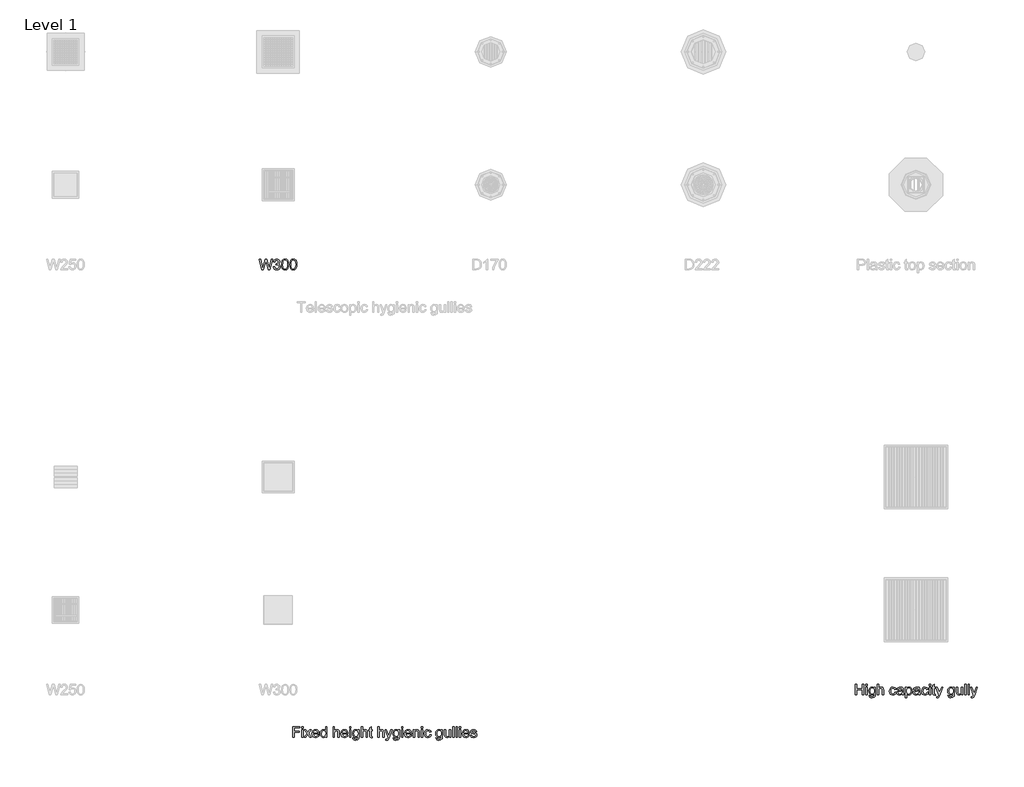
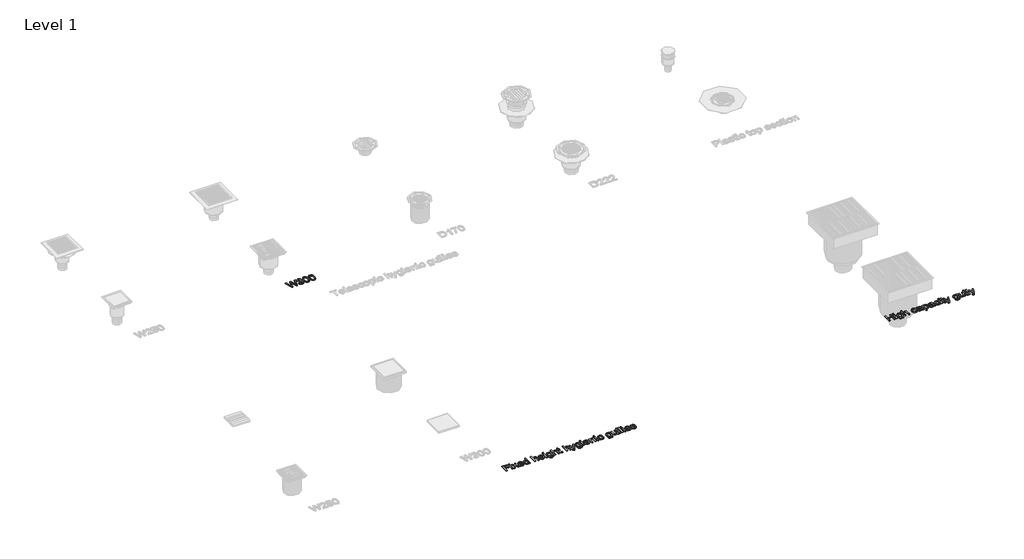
# One storey, part 2 of 3: 3 proxies.
"""IFC4 building model written with IfcOpenShell, lengths in millimetres."""

from ifc_helpers import new_model, si_unit, origin, origin_with_axes, place, context, project, spatial, polyline, outline, extrude, element, save

model = new_model("IFC4")

# Units and contexts
model_context = context("Model", 3, world=origin())
ifc_project = project(units=[si_unit("LENGTHUNIT", "METRE", prefix="MILLI")], contexts=[model_context])

# Site, building, storey
site = spatial("IfcSite", under=ifc_project)
building = spatial("IfcBuilding", under=site)
storey = spatial("IfcBuildingStorey", under=building, Name="Level 1", Elevation=0.0)

# Proxies
placement = place(None, origin())
element("IfcBuildingElementProxy", 1, Name="100mm ACO", ObjectType="100mm ACO", at=placement, inside=storey, context=model_context, shape_type="SweptSolid", body=[
    extrude(outline(polyline([(204.6296296, -6911.1111111), (150.9259259, -6911.1111111), (150.9259259, -6942.5925926), (197.2222222, -6942.5925926), (197.2222222, -6953.7037037), (150.9259259, -6953.7037037), (150.9259259, -7000.0), (137.962963, -7000.0), (137.962963, -6900.0), (204.6296296, -6900.0), (204.6296296, -6911.1111111)])), origin_with_axes(), (0.0, 0.0, 1.0), 10.0),
    extrude(outline(polyline([(234.2592593, -7000.0), (221.2962963, -7000.0), (221.2962963, -6927.7777778), (234.2592593, -6927.7777778), (234.2592593, -7000.0)])), origin_with_axes(), (0.0, 0.0, 1.0), 10.0),
    extrude(outline(polyline([(234.2592593, -6912.962963), (221.2962963, -6912.962963), (221.2962963, -6900.0), (234.2592593, -6900.0), (234.2592593, -6912.962963)])), origin_with_axes(), (0.0, 0.0, 1.0), 10.0),
    extrude(outline(polyline([(312.037037, -7000.0), (298.9872685, -7000.0), (278.7326389, -6971.7013889), (258.4780093, -7000.0), (245.3703704, -7000.0), (272.1354167, -6962.5868056), (247.2222222, -6927.7777778), (260.2719907, -6927.7777778), (278.6747685, -6953.443287), (297.0486111, -6927.7777778), (310.1851852, -6927.7777778), (285.2430556, -6962.6157407), (312.037037, -7000.0)])), origin_with_axes(), (0.0, 0.0, 1.0), 10.0),
    extrude(outline(polyline([(384.2592593, -6966.6666667), (330.5555556, -6966.6666667), (332.6280382, -6977.7922454), (337.3408565, -6985.9375), (344.1225405, -6990.9288194), (352.4016204, -6992.5925926), (364.0769676, -6988.9033565), (371.2962963, -6977.7777778), (384.2592593, -6979.2824074), (379.8828125, -6988.9033565), (372.9456019, -6996.0069444), (363.7008102, -7000.390625), (352.4016204, -7001.8518519), (337.8146701, -6999.3453414), (326.8084491, -6991.8258102), (319.8965567, -6979.9660012), (317.5925926, -6964.4386574), (319.8133681, -6948.900463), (326.4756944, -6936.6030093), (337.1744792, -6928.5951968), (351.5046296, -6925.9259259), (366.724537, -6929.3836806), (379.1521991, -6941.1603009), (382.9824942, -6951.6963252), (384.2592593, -6966.6666667)]), holes=[polyline([(371.2962963, -6957.4074074), (369.212963, -6947.2511574), (364.4675926, -6940.3935185), (351.1863426, -6935.1851852), (343.3304398, -6936.7332176), (337.0081019, -6941.3773148), (330.5555556, -6957.4074074), (371.2962963, -6957.4074074)])]), origin_with_axes(), (0.0, 0.0, 1.0), 10.0),
    extrude(outline(polyline([(458.3333333, -7000.0), (445.3703704, -7000.0), (445.3703704, -6991.8402778), (437.0153356, -6999.3489583), (425.6365741, -7001.8518519), (413.7695312, -6999.2115162), (404.0364583, -6991.2905093), (397.5368924, -6979.1594329), (395.3703704, -6963.8888889), (397.4464699, -6948.1481481), (403.6747685, -6936.1111111), (413.3101852, -6928.4722222), (425.6076389, -6925.9259259), (436.8923611, -6928.2118056), (445.1099537, -6935.0694444), (445.3703704, -6900.0), (458.3333333, -6900.0), (458.3333333, -7000.0)]), holes=[polyline([(427.1412037, -6992.5925926), (434.1941551, -6990.8854167), (440.0752315, -6985.7638889), (444.0465856, -6977.1701389), (445.3703704, -6965.0462963), (440.5237269, -6943.287037), (434.624566, -6937.2106481), (426.6203704, -6935.1851852), (418.6740451, -6937.1672454), (412.9484954, -6943.1134259), (408.3333333, -6963.9178241), (410.8217593, -6979.6730324), (417.7662037, -6989.3518519), (427.1412037, -6992.5925926)])]), origin_with_axes(), (0.0, 0.0, 1.0), 10.0),
    extrude(outline(polyline([(575.0, -7000.0), (562.037037, -7000.0), (562.037037, -6953.2986111), (558.3478009, -6939.7135417), (547.337963, -6935.1851852), (534.4039352, -6940.5237269), (530.1287616, -6947.9564525), (528.7037037, -6959.5775463), (528.7037037, -7000.0), (515.7407407, -7000.0), (515.7407407, -6900.0), (528.7037037, -6900.0), (528.7037037, -6935.8217593), (538.4042245, -6928.3998843), (550.2604167, -6925.9259259), (563.5416667, -6928.7905093), (572.4392361, -6937.6012731), (575.0, -6954.1087963), (575.0, -7000.0)])), origin_with_axes(), (0.0, 0.0, 1.0), 10.0),
    extrude(outline(polyline([(656.4814815, -6966.6666667), (602.7777778, -6966.6666667), (604.8502604, -6977.7922454), (609.5630787, -6985.9375), (616.3447627, -6990.9288194), (624.6238426, -6992.5925926), (636.2991898, -6988.9033565), (643.5185185, -6977.7777778), (656.4814815, -6979.2824074), (652.1050347, -6988.9033565), (645.1678241, -6996.0069444), (635.9230324, -7000.390625), (624.6238426, -7001.8518519), (610.0368924, -6999.3453414), (599.0306713, -6991.8258102), (592.1187789, -6979.9660012), (589.8148148, -6964.4386574), (592.0355903, -6948.900463), (598.6979167, -6936.6030093), (609.3967014, -6928.5951968), (623.7268519, -6925.9259259), (638.9467593, -6929.3836806), (651.3744213, -6941.1603009), (655.2047164, -6951.6963252), (656.4814815, -6966.6666667)]), holes=[polyline([(643.5185185, -6957.4074074), (641.4351852, -6947.2511574), (636.6898148, -6940.3935185), (623.4085648, -6935.1851852), (615.552662, -6936.7332176), (609.2303241, -6941.3773148), (602.7777778, -6957.4074074), (643.5185185, -6957.4074074)])]), origin_with_axes(), (0.0, 0.0, 1.0), 10.0),
    extrude(outline(polyline([(684.2592593, -7000.0), (671.2962963, -7000.0), (671.2962963, -6927.7777778), (684.2592593, -6927.7777778), (684.2592593, -7000.0)])), origin_with_axes(), (0.0, 0.0, 1.0), 10.0),
    extrude(outline(polyline([(684.2592593, -6912.962963), (671.2962963, -6912.962963), (671.2962963, -6900.0), (684.2592593, -6900.0), (684.2592593, -6912.962963)])), origin_with_axes(), (0.0, 0.0, 1.0), 10.0),
    extrude(outline(polyline([(762.037037, -6989.3518519), (758.984375, -7011.9936343), (748.119213, -7023.6255787), (729.4560185, -7027.7777778), (718.2400174, -7026.3708044), (709.0711806, -7022.1498843), (702.9622396, -7014.7243924), (700.9259259, -7003.7037037), (713.8888889, -7005.7581019), (718.4606481, -7015.3211806), (729.6585648, -7018.5185185), (742.96875, -7014.8292824), (748.1336806, -7005.8449074), (749.0740741, -6991.2326389), (740.2994792, -6997.8081597), (729.4849537, -7000.0), (717.0934606, -6997.3885995), (707.4074074, -6989.5543981), (701.1574074, -6977.7416088), (699.0740741, -6963.1944444), (701.0561343, -6948.5532407), (707.0023148, -6936.5740741), (716.4496528, -6928.587963), (728.9351852, -6925.9259259), (740.0101273, -6928.3058449), (748.8136574, -6935.4456019), (749.0740741, -6927.7777778), (762.037037, -6927.7777778), (762.037037, -6989.3518519)]), holes=[polyline([(731.4236111, -6990.7407407), (738.635706, -6989.134838), (744.994213, -6984.3171296), (749.4429977, -6975.7233796), (750.9259259, -6962.7893519), (749.5117187, -6951.0018808), (745.2690972, -6942.3177083), (738.9431424, -6936.968316), (731.2789352, -6935.1851852), (723.5568576, -6937.0117187), (717.4045139, -6942.4913194), (713.3789062, -6951.1465567), (712.037037, -6962.5), (713.4440104, -6975.2170139), (717.6649306, -6983.9699074), (723.9185475, -6989.0480324), (731.4236111, -6990.7407407)])]), origin_with_axes(), (0.0, 0.0, 1.0), 10.0),
    extrude(outline(polyline([(839.8148148, -7000.0), (826.8518519, -7000.0), (826.8518519, -6953.2986111), (823.1626157, -6939.7135417), (812.1527778, -6935.1851852), (799.21875, -6940.5237269), (794.9435764, -6947.9564525), (793.5185185, -6959.5775463), (793.5185185, -7000.0), (780.5555556, -7000.0), (780.5555556, -6900.0), (793.5185185, -6900.0), (793.5185185, -6935.8217593), (803.2190394, -6928.3998843), (815.0752315, -6925.9259259), (828.3564815, -6928.7905093), (837.2540509, -6937.6012731), (839.8148148, -6954.1087963), (839.8148148, -7000.0)])), origin_with_axes(), (0.0, 0.0, 1.0), 10.0),
    extrude(outline(polyline([(886.1111111, -7001.0127315), (877.025463, -7001.8518519), (865.4369213, -6998.9728009), (860.9953704, -6991.6666667), (860.1851852, -6979.3402778), (860.1851852, -6937.037037), (850.9259259, -6937.037037), (850.9259259, -6927.7777778), (860.1851852, -6927.7777778), (860.1851852, -6909.4328704), (873.1481481, -6901.8518519), (873.1481481, -6927.7777778), (884.2592593, -6927.7777778), (884.2592593, -6937.037037), (873.1481481, -6937.037037), (873.1481481, -6981.9444444), (874.1898148, -6990.162037), (879.4849537, -6992.5925926), (884.5196759, -6992.5925926), (886.1111111, -7001.0127315)])), origin_with_axes(), (0.0, 0.0, 1.0), 10.0),
    extrude(outline(polyline([(995.3703704, -7000.0), (982.4074074, -7000.0), (982.4074074, -6953.2986111), (978.7181713, -6939.7135417), (967.7083333, -6935.1851852), (954.7743056, -6940.5237269), (950.4991319, -6947.9564525), (949.0740741, -6959.5775463), (949.0740741, -7000.0), (936.1111111, -7000.0), (936.1111111, -6900.0), (949.0740741, -6900.0), (949.0740741, -6935.8217593), (958.7745949, -6928.3998843), (970.630787, -6925.9259259), (983.912037, -6928.7905093), (992.8096065, -6937.6012731), (995.3703704, -6954.1087963), (995.3703704, -7000.0)])), origin_with_axes(), (0.0, 0.0, 1.0), 10.0),
    extrude(outline(polyline([(1071.2962963, -6927.7777778), (1044.1261574, -7001.9386574), (1035.083912, -7021.2818287), (1028.9966725, -7026.1537905), (1020.775463, -7027.7777778), (1013.1944444, -7026.6203704), (1012.037037, -7016.6666667), (1018.5763889, -7018.5185185), (1027.4305556, -7014.5543981), (1033.3043981, -7001.0706019), (1006.4814815, -6927.7777778), (1018.2002315, -6927.7777778), (1035.8217593, -6973.8715278), (1039.1493056, -6984.8090278), (1044.068287, -6971.1226852), (1059.6064815, -6927.7777778), (1071.2962963, -6927.7777778)])), origin_with_axes(), (0.0, 0.0, 1.0), 10.0),
    extrude(outline(polyline([(1141.6666667, -6989.3518519), (1138.6140046, -7011.9936343), (1127.7488426, -7023.6255787), (1109.0856481, -7027.7777778), (1097.869647, -7026.3708044), (1088.7008102, -7022.1498843), (1082.5918692, -7014.7243924), (1080.5555556, -7003.7037037), (1093.5185185, -7005.7581019), (1098.0902778, -7015.3211806), (1109.2881944, -7018.5185185), (1122.5983796, -7014.8292824), (1127.7633102, -7005.8449074), (1128.7037037, -6991.2326389), (1119.9291088, -6997.8081597), (1109.1145833, -7000.0), (1096.7230903, -6997.3885995), (1087.037037, -6989.5543981), (1080.787037, -6977.7416088), (1078.7037037, -6963.1944444), (1080.6857639, -6948.5532407), (1086.6319444, -6936.5740741), (1096.0792824, -6928.587963), (1108.5648148, -6925.9259259), (1119.6397569, -6928.3058449), (1128.443287, -6935.4456019), (1128.7037037, -6927.7777778), (1141.6666667, -6927.7777778), (1141.6666667, -6989.3518519)]), holes=[polyline([(1111.0532407, -6990.7407407), (1118.2653356, -6989.134838), (1124.6238426, -6984.3171296), (1129.0726273, -6975.7233796), (1130.5555556, -6962.7893519), (1129.1413484, -6951.0018808), (1124.8987269, -6942.3177083), (1118.572772, -6936.968316), (1110.9085648, -6935.1851852), (1103.1864873, -6937.0117187), (1097.0341435, -6942.4913194), (1093.0085359, -6951.1465567), (1091.6666667, -6962.5), (1093.07364, -6975.2170139), (1097.2945602, -6983.9699074), (1103.5481771, -6989.0480324), (1111.0532407, -6990.7407407)])]), origin_with_axes(), (0.0, 0.0, 1.0), 10.0),
    extrude(outline(polyline([(1173.1481481, -7000.0), (1160.1851852, -7000.0), (1160.1851852, -6927.7777778), (1173.1481481, -6927.7777778), (1173.1481481, -7000.0)])), origin_with_axes(), (0.0, 0.0, 1.0), 10.0),
    extrude(outline(polyline([(1173.1481481, -6912.962963), (1160.1851852, -6912.962963), (1160.1851852, -6900.0), (1173.1481481, -6900.0), (1173.1481481, -6912.962963)])), origin_with_axes(), (0.0, 0.0, 1.0), 10.0),
    extrude(outline(polyline([(1254.6296296, -6966.6666667), (1200.9259259, -6966.6666667), (1202.9984086, -6977.7922454), (1207.7112269, -6985.9375), (1214.4929109, -6990.9288194), (1222.7719907, -6992.5925926), (1234.447338, -6988.9033565), (1241.6666667, -6977.7777778), (1254.6296296, -6979.2824074), (1250.2531829, -6988.9033565), (1243.3159722, -6996.0069444), (1234.0711806, -7000.390625), (1222.7719907, -7001.8518519), (1208.1850405, -6999.3453414), (1197.1788194, -6991.8258102), (1190.2669271, -6979.9660012), (1187.962963, -6964.4386574), (1190.1837384, -6948.900463), (1196.8460648, -6936.6030093), (1207.5448495, -6928.5951968), (1221.875, -6925.9259259), (1237.0949074, -6929.3836806), (1249.5225694, -6941.1603009), (1253.3528646, -6951.6963252), (1254.6296296, -6966.6666667)]), holes=[polyline([(1241.6666667, -6957.4074074), (1239.5833333, -6947.2511574), (1234.837963, -6940.3935185), (1221.556713, -6935.1851852), (1213.7008102, -6936.7332176), (1207.3784722, -6941.3773148), (1200.9259259, -6957.4074074), (1241.6666667, -6957.4074074)])]), origin_with_axes(), (0.0, 0.0, 1.0), 10.0),
    extrude(outline(polyline([(1328.7037037, -7000.0), (1315.7407407, -7000.0), (1315.7407407, -6955.0347222), (1311.8778935, -6939.4386574), (1301.1284722, -6935.1851852), (1291.1024306, -6937.9050926), (1284.3894676, -6945.5729167), (1282.4074074, -6959.5775463), (1282.4074074, -7000.0), (1269.4444444, -7000.0), (1269.4444444, -6927.7777778), (1280.5555556, -6927.7777778), (1280.5555556, -6937.818287), (1290.4513889, -6928.8917824), (1303.7037037, -6925.9259259), (1315.0752315, -6927.9803241), (1323.8715278, -6934.1290509), (1327.8790509, -6942.8674769), (1328.7037037, -6955.4108796), (1328.7037037, -7000.0)])), origin_with_axes(), (0.0, 0.0, 1.0), 10.0),
    extrude(outline(polyline([(1360.1851852, -7000.0), (1347.2222222, -7000.0), (1347.2222222, -6927.7777778), (1360.1851852, -6927.7777778), (1360.1851852, -7000.0)])), origin_with_axes(), (0.0, 0.0, 1.0), 10.0),
    extrude(outline(polyline([(1360.1851852, -6912.962963), (1347.2222222, -6912.962963), (1347.2222222, -6900.0), (1360.1851852, -6900.0), (1360.1851852, -6912.962963)])), origin_with_axes(), (0.0, 0.0, 1.0), 10.0),
    extrude(outline(polyline([(1439.8148148, -6975.5497685), (1435.7855903, -6987.3553241), (1428.6168981, -6995.5150463), (1419.2925347, -7000.2676505), (1408.7962963, -7001.8518519), (1394.4806134, -6999.2621528), (1383.8252315, -6991.4930556), (1377.2063079, -6979.4487847), (1375.0, -6964.0335648), (1380.0347222, -6941.3483796), (1392.6359954, -6929.3836806), (1408.5358796, -6925.9259259), (1427.9947917, -6931.5827546), (1434.5305266, -6938.566985), (1437.962963, -6948.2060185), (1425.0, -6950.0), (1419.0972222, -6938.9033565), (1408.6805556, -6935.1851852), (1399.7251157, -6937.0695891), (1393.2291667, -6942.7228009), (1389.2795139, -6951.7541956), (1387.962963, -6963.7731481), (1389.2831308, -6976.0018808), (1393.2436343, -6985.083912), (1399.6925637, -6990.7154225), (1408.4780093, -6992.5925926), (1421.0792824, -6987.962963), (1426.8518519, -6974.0740741), (1439.8148148, -6975.5497685)])), origin_with_axes(), (0.0, 0.0, 1.0), 10.0),
    extrude(outline(polyline([(1545.3703704, -6989.3518519), (1542.3177083, -7011.9936343), (1531.4525463, -7023.6255787), (1512.7893519, -7027.7777778), (1501.5733507, -7026.3708044), (1492.4045139, -7022.1498843), (1486.2955729, -7014.7243924), (1484.2592593, -7003.7037037), (1497.2222222, -7005.7581019), (1501.7939815, -7015.3211806), (1512.9918981, -7018.5185185), (1526.3020833, -7014.8292824), (1531.4670139, -7005.8449074), (1532.4074074, -6991.2326389), (1523.6328125, -6997.8081597), (1512.818287, -7000.0), (1500.426794, -6997.3885995), (1490.7407407, -6989.5543981), (1484.4907407, -6977.7416088), (1482.4074074, -6963.1944444), (1484.3894676, -6948.5532407), (1490.3356481, -6936.5740741), (1499.7829861, -6928.587963), (1512.2685185, -6925.9259259), (1523.3434606, -6928.3058449), (1532.1469907, -6935.4456019), (1532.4074074, -6927.7777778), (1545.3703704, -6927.7777778), (1545.3703704, -6989.3518519)]), holes=[polyline([(1514.7569444, -6990.7407407), (1521.9690394, -6989.134838), (1528.3275463, -6984.3171296), (1532.776331, -6975.7233796), (1534.2592593, -6962.7893519), (1532.8450521, -6951.0018808), (1528.6024306, -6942.3177083), (1522.2764757, -6936.968316), (1514.6122685, -6935.1851852), (1506.890191, -6937.0117187), (1500.7378472, -6942.4913194), (1496.7122396, -6951.1465567), (1495.3703704, -6962.5), (1496.7773437, -6975.2170139), (1500.9982639, -6983.9699074), (1507.2518808, -6989.0480324), (1514.7569444, -6990.7407407)])]), origin_with_axes(), (0.0, 0.0, 1.0), 10.0),
    extrude(outline(polyline([(1623.1481481, -7000.0), (1612.037037, -7000.0), (1612.037037, -6989.4965278), (1601.7939815, -6998.7630208), (1588.8310185, -7001.8518519), (1574.7106481, -6998.3362269), (1566.0590278, -6988.6574074), (1563.8888889, -6972.65625), (1563.8888889, -6927.7777778), (1576.8518519, -6927.7777778), (1576.8518519, -6968.75), (1577.7488426, -6982.8414352), (1582.4363426, -6989.84375), (1591.4641204, -6992.5925926), (1604.2100694, -6987.6736111), (1608.6914062, -6980.1215278), (1610.1851852, -6967.3032407), (1610.1851852, -6927.7777778), (1623.1481481, -6927.7777778), (1623.1481481, -7000.0)])), origin_with_axes(), (0.0, 0.0, 1.0), 10.0),
    extrude(outline(polyline([(1654.6296296, -7000.0), (1641.6666667, -7000.0), (1641.6666667, -6900.0), (1654.6296296, -6900.0), (1654.6296296, -7000.0)])), origin_with_axes(), (0.0, 0.0, 1.0), 10.0),
    extrude(outline(polyline([(1686.1111111, -7000.0), (1673.1481481, -7000.0), (1673.1481481, -6900.0), (1686.1111111, -6900.0), (1686.1111111, -7000.0)])), origin_with_axes(), (0.0, 0.0, 1.0), 10.0),
    extrude(outline(polyline([(1717.5925926, -6912.962963), (1704.6296296, -6912.962963), (1704.6296296, -6900.0), (1717.5925926, -6900.0), (1717.5925926, -6912.962963)])), origin_with_axes(), (0.0, 0.0, 1.0), 10.0),
    extrude(outline(polyline([(1717.5925926, -7000.0), (1704.6296296, -7000.0), (1704.6296296, -6927.7777778), (1717.5925926, -6927.7777778), (1717.5925926, -7000.0)])), origin_with_axes(), (0.0, 0.0, 1.0), 10.0),
    extrude(outline(polyline([(1799.0740741, -6966.6666667), (1745.3703704, -6966.6666667), (1747.442853, -6977.7922454), (1752.1556713, -6985.9375), (1758.9373553, -6990.9288194), (1767.2164352, -6992.5925926), (1778.8917824, -6988.9033565), (1786.1111111, -6977.7777778), (1799.0740741, -6979.2824074), (1794.6976273, -6988.9033565), (1787.7604167, -6996.0069444), (1778.515625, -7000.390625), (1767.2164352, -7001.8518519), (1752.629485, -6999.3453414), (1741.6232639, -6991.8258102), (1734.7113715, -6979.9660012), (1732.4074074, -6964.4386574), (1734.6281829, -6948.900463), (1741.2905093, -6936.6030093), (1751.989294, -6928.5951968), (1766.3194444, -6925.9259259), (1781.5393519, -6929.3836806), (1793.9670139, -6941.1603009), (1797.797309, -6951.6963252), (1799.0740741, -6966.6666667)]), holes=[polyline([(1786.1111111, -6957.4074074), (1784.0277778, -6947.2511574), (1779.2824074, -6940.3935185), (1766.0011574, -6935.1851852), (1758.1452546, -6936.7332176), (1751.8229167, -6941.3773148), (1745.3703704, -6957.4074074), (1786.1111111, -6957.4074074)])]), origin_with_axes(), (0.0, 0.0, 1.0), 10.0),
    extrude(outline(polyline([(1854.6296296, -6948.1481481), (1849.8408565, -6938.4259259), (1838.7731481, -6935.1851852), (1827.4594907, -6937.962963), (1823.1481481, -6946.0358796), (1825.9982639, -6953.1828704), (1839.4386574, -6957.0601852), (1857.1614583, -6961.2268519), (1866.2037037, -6967.5491898), (1869.4444444, -6978.8773148), (1867.4334491, -6987.8074363), (1861.400463, -6995.2112269), (1852.0037616, -7000.1916956), (1839.9016204, -7001.8518519), (1827.4269387, -7000.4557292), (1818.0121528, -6996.2673611), (1811.6500289, -6989.2939815), (1808.3333333, -6979.5428241), (1821.2962963, -6977.7777778), (1826.8952546, -6988.9033565), (1839.9016204, -6992.5925926), (1852.1990741, -6988.7586806), (1856.4814815, -6979.4270833), (1854.5572917, -6973.4519676), (1849.7540509, -6970.0810185), (1836.1689815, -6967.1875), (1815.234375, -6959.375), (1810.1851852, -6946.7881944), (1812.0551215, -6938.5018808), (1817.6649306, -6931.8142361), (1826.4359086, -6927.3980035), (1837.7893519, -6925.9259259), (1849.7214988, -6927.2135417), (1858.666088, -6931.0763889), (1864.6231192, -6937.5072338), (1867.5925926, -6946.4988426), (1854.6296296, -6948.1481481)])), origin_with_axes(), (0.0, 0.0, 1.0), 10.0),
])
element("IfcBuildingElementProxy", 2, Name="100mm ACO", ObjectType="100mm ACO", at=placement, inside=storey, context=model_context, shape_type="SweptSolid", body=[
    extrude(outline(polyline([(5508.3333333, -6600.0), (5495.3703704, -6600.0), (5495.3703704, -6551.8518519), (5443.5185185, -6551.8518519), (5443.5185185, -6600.0), (5430.5555556, -6600.0), (5430.5555556, -6500.0), (5443.5185185, -6500.0), (5443.5185185, -6540.7407407), (5495.3703704, -6540.7407407), (5495.3703704, -6500.0), (5508.3333333, -6500.0), (5508.3333333, -6600.0)])), origin_with_axes(), (0.0, 0.0, 1.0), 10.0),
    extrude(outline(polyline([(5541.6666667, -6600.0), (5528.7037037, -6600.0), (5528.7037037, -6527.7777778), (5541.6666667, -6527.7777778), (5541.6666667, -6600.0)])), origin_with_axes(), (0.0, 0.0, 1.0), 10.0),
    extrude(outline(polyline([(5541.6666667, -6512.962963), (5528.7037037, -6512.962963), (5528.7037037, -6500.0), (5541.6666667, -6500.0), (5541.6666667, -6512.962963)])), origin_with_axes(), (0.0, 0.0, 1.0), 10.0),
    extrude(outline(polyline([(5619.4444444, -6589.3518519), (5616.3917824, -6611.9936343), (5605.5266204, -6623.6255787), (5586.8634259, -6627.7777778), (5575.6474248, -6626.3708044), (5566.478588, -6622.1498843), (5560.369647, -6614.7243924), (5558.3333333, -6603.7037037), (5571.2962963, -6605.7581019), (5575.8680556, -6615.3211806), (5587.0659722, -6618.5185185), (5600.3761574, -6614.8292824), (5605.541088, -6605.8449074), (5606.4814815, -6591.2326389), (5597.7068866, -6597.8081597), (5586.8923611, -6600.0), (5574.5008681, -6597.3885995), (5564.8148148, -6589.5543981), (5558.5648148, -6577.7416088), (5556.4814815, -6563.1944444), (5558.4635417, -6548.5532407), (5564.4097222, -6536.5740741), (5573.8570602, -6528.587963), (5586.3425926, -6525.9259259), (5597.4175347, -6528.3058449), (5606.2210648, -6535.4456019), (5606.4814815, -6527.7777778), (5619.4444444, -6527.7777778), (5619.4444444, -6589.3518519)]), holes=[polyline([(5588.8310185, -6590.7407407), (5596.0431134, -6589.134838), (5602.4016204, -6584.3171296), (5606.8504051, -6575.7233796), (5608.3333333, -6562.7893519), (5606.9191262, -6551.0018808), (5602.6765046, -6542.3177083), (5596.3505498, -6536.968316), (5588.6863426, -6535.1851852), (5580.964265, -6537.0117187), (5574.8119213, -6542.4913194), (5570.7863137, -6551.1465567), (5569.4444444, -6562.5), (5570.8514178, -6575.2170139), (5575.072338, -6583.9699074), (5581.3259549, -6589.0480324), (5588.8310185, -6590.7407407)])]), origin_with_axes(), (0.0, 0.0, 1.0), 10.0),
    extrude(outline(polyline([(5697.2222222, -6600.0), (5684.2592593, -6600.0), (5684.2592593, -6553.2986111), (5680.5700231, -6539.7135417), (5669.5601852, -6535.1851852), (5656.6261574, -6540.5237269), (5652.3509838, -6547.9564525), (5650.9259259, -6559.5775463), (5650.9259259, -6600.0), (5637.962963, -6600.0), (5637.962963, -6500.0), (5650.9259259, -6500.0), (5650.9259259, -6535.8217593), (5660.6264468, -6528.3998843), (5672.4826389, -6525.9259259), (5685.7638889, -6528.7905093), (5694.6614583, -6537.6012731), (5697.2222222, -6554.1087963), (5697.2222222, -6600.0)])), origin_with_axes(), (0.0, 0.0, 1.0), 10.0),
    extrude(outline(polyline([(5815.7407407, -6575.5497685), (5811.7115162, -6587.3553241), (5804.5428241, -6595.5150463), (5795.2184606, -6600.2676505), (5784.7222222, -6601.8518519), (5770.4065394, -6599.2621528), (5759.7511574, -6591.4930556), (5753.1322338, -6579.4487847), (5750.9259259, -6564.0335648), (5755.9606481, -6541.3483796), (5768.5619213, -6529.3836806), (5784.4618056, -6525.9259259), (5803.9207176, -6531.5827546), (5810.4564525, -6538.566985), (5813.8888889, -6548.2060185), (5800.9259259, -6550.0), (5795.0231481, -6538.9033565), (5784.6064815, -6535.1851852), (5775.6510417, -6537.0695891), (5769.1550926, -6542.7228009), (5765.2054398, -6551.7541956), (5763.8888889, -6563.7731481), (5765.2090567, -6576.0018808), (5769.1695602, -6585.083912), (5775.6184896, -6590.7154225), (5784.4039352, -6592.5925926), (5797.0052083, -6587.962963), (5802.7777778, -6574.0740741), (5815.7407407, -6575.5497685)])), origin_with_axes(), (0.0, 0.0, 1.0), 10.0),
    extrude(outline(polyline([(5886.1111111, -6600.0), (5873.1481481, -6600.0), (5869.4444444, -6591.2615741), (5856.9516782, -6599.2042824), (5843.4895833, -6601.8518519), (5833.5033275, -6600.4050926), (5825.8825231, -6596.0648148), (5821.0539641, -6589.3518519), (5819.4444444, -6580.787037), (5821.021412, -6572.479022), (5825.7523148, -6565.7841435), (5834.3822338, -6560.8904803), (5847.65625, -6557.9861111), (5858.9988426, -6556.25), (5869.4444444, -6553.7037037), (5869.1116898, -6545.6741898), (5867.1730324, -6540.7986111), (5862.0081019, -6536.7332176), (5852.4305556, -6535.1851852), (5840.3501157, -6538.3246528), (5834.2592593, -6550.0), (5821.2962963, -6548.4085648), (5824.8517072, -6538.599537), (5831.5248843, -6531.568287), (5841.3085937, -6527.3365162), (5854.1956019, -6525.9259259), (5873.4519676, -6529.7887731), (5881.0040509, -6539.1059028), (5882.4074074, -6553.1539352), (5882.4074074, -6569.6759259), (5882.9571759, -6589.9305556), (5886.1111111, -6600.0)]), holes=[polyline([(5869.4444444, -6567.5925926), (5869.4444444, -6562.962963), (5846.166088, -6568.287037), (5835.8470775, -6572.3451968), (5832.4074074, -6580.5844907), (5836.1111111, -6589.2071759), (5846.7881944, -6592.5925926), (5862.6012731, -6586.9212963), (5867.7336516, -6579.2534722), (5869.4444444, -6567.5925926)])]), origin_with_axes(), (0.0, 0.0, 1.0), 10.0),
    extrude(outline(polyline([(5914.0190972, -6536.4872685), (5922.4754051, -6528.5662616), (5934.1435185, -6525.9259259), (5946.4699074, -6528.515625), (5955.9027778, -6536.2847222), (5961.8923611, -6548.2132523), (5963.8888889, -6563.28125), (5961.6319444, -6579.1702836), (5954.8611111, -6591.4207176), (5944.8061343, -6599.2440683), (5932.6967593, -6601.8518519), (5922.3234954, -6599.7251157), (5914.2361111, -6593.3449074), (5913.8888889, -6627.7777778), (5900.9259259, -6627.7777778), (5900.9259259, -6527.7777778), (5913.8888889, -6527.7777778), (5914.0190972, -6536.4872685)]), holes=[polyline([(5931.2789352, -6592.5925926), (5939.0516493, -6590.766059), (5945.3559028, -6585.2864583), (5949.5334201, -6576.1899595), (5950.9259259, -6563.5127315), (5949.5840567, -6551.4359086), (5945.5584491, -6542.5202546), (5939.4422743, -6537.0189525), (5931.8287037, -6535.1851852), (5923.9474826, -6537.2287326), (5917.6070602, -6543.359375), (5913.4295428, -6552.7452257), (5912.037037, -6564.5543981), (5913.3716725, -6576.66739), (5917.3755787, -6585.4600694), (5923.5206887, -6590.8094618), (5931.2789352, -6592.5925926)])]), origin_with_axes(), (0.0, 0.0, 1.0), 10.0),
    extrude(outline(polyline([(6041.6666667, -6600.0), (6028.7037037, -6600.0), (6025.0, -6591.2615741), (6012.5072338, -6599.2042824), (5999.0451389, -6601.8518519), (5989.0588831, -6600.4050926), (5981.4380787, -6596.0648148), (5976.6095197, -6589.3518519), (5975.0, -6580.787037), (5976.5769676, -6572.479022), (5981.3078704, -6565.7841435), (5989.9377894, -6560.8904803), (6003.2118056, -6557.9861111), (6014.5543981, -6556.25), (6025.0, -6553.7037037), (6024.6672454, -6545.6741898), (6022.728588, -6540.7986111), (6017.5636574, -6536.7332176), (6007.9861111, -6535.1851852), (5995.9056713, -6538.3246528), (5989.8148148, -6550.0), (5976.8518519, -6548.4085648), (5980.4072627, -6538.599537), (5987.0804398, -6531.568287), (5996.8641493, -6527.3365162), (6009.7511574, -6525.9259259), (6029.0075231, -6529.7887731), (6036.5596065, -6539.1059028), (6037.962963, -6553.1539352), (6037.962963, -6569.6759259), (6038.5127315, -6589.9305556), (6041.6666667, -6600.0)]), holes=[polyline([(6025.0, -6567.5925926), (6025.0, -6562.962963), (6001.7216435, -6568.287037), (5991.4026331, -6572.3451968), (5987.962963, -6580.5844907), (5991.6666667, -6589.2071759), (6002.34375, -6592.5925926), (6018.1568287, -6586.9212963), (6023.2892072, -6579.2534722), (6025.0, -6567.5925926)])]), origin_with_axes(), (0.0, 0.0, 1.0), 10.0),
    extrude(outline(polyline([(6117.5925926, -6575.5497685), (6113.5633681, -6587.3553241), (6106.3946759, -6595.5150463), (6097.0703125, -6600.2676505), (6086.5740741, -6601.8518519), (6072.2583912, -6599.2621528), (6061.6030093, -6591.4930556), (6054.9840856, -6579.4487847), (6052.7777778, -6564.0335648), (6057.8125, -6541.3483796), (6070.4137731, -6529.3836806), (6086.3136574, -6525.9259259), (6105.7725694, -6531.5827546), (6112.3083044, -6538.566985), (6115.7407407, -6548.2060185), (6102.7777778, -6550.0), (6096.875, -6538.9033565), (6086.4583333, -6535.1851852), (6077.5028935, -6537.0695891), (6071.0069444, -6542.7228009), (6067.0572917, -6551.7541956), (6065.7407407, -6563.7731481), (6067.0609086, -6576.0018808), (6071.021412, -6585.083912), (6077.4703414, -6590.7154225), (6086.255787, -6592.5925926), (6098.8570602, -6587.962963), (6104.6296296, -6574.0740741), (6117.5925926, -6575.5497685)])), origin_with_axes(), (0.0, 0.0, 1.0), 10.0),
    extrude(outline(polyline([(6137.962963, -6600.0), (6125.0, -6600.0), (6125.0, -6527.7777778), (6137.962963, -6527.7777778), (6137.962963, -6600.0)])), origin_with_axes(), (0.0, 0.0, 1.0), 10.0),
    extrude(outline(polyline([(6137.962963, -6512.962963), (6125.0, -6512.962963), (6125.0, -6500.0), (6137.962963, -6500.0), (6137.962963, -6512.962963)])), origin_with_axes(), (0.0, 0.0, 1.0), 10.0),
    extrude(outline(polyline([(6184.2592593, -6601.0127315), (6175.1736111, -6601.8518519), (6163.5850694, -6598.9728009), (6159.1435185, -6591.6666667), (6158.3333333, -6579.3402778), (6158.3333333, -6537.037037), (6149.0740741, -6537.037037), (6149.0740741, -6527.7777778), (6158.3333333, -6527.7777778), (6158.3333333, -6509.4328704), (6171.2962963, -6501.8518519), (6171.2962963, -6527.7777778), (6182.4074074, -6527.7777778), (6182.4074074, -6537.037037), (6171.2962963, -6537.037037), (6171.2962963, -6581.9444444), (6172.337963, -6590.162037), (6177.6331019, -6592.5925926), (6182.6678241, -6592.5925926), (6184.2592593, -6601.0127315)])), origin_with_axes(), (0.0, 0.0, 1.0), 10.0),
    extrude(outline(polyline([(6252.7777778, -6527.7777778), (6225.6076389, -6601.9386574), (6216.5653935, -6621.2818287), (6210.4781539, -6626.1537905), (6202.2569444, -6627.7777778), (6194.6759259, -6626.6203704), (6193.5185185, -6616.6666667), (6200.0578704, -6618.5185185), (6208.912037, -6614.5543981), (6214.7858796, -6601.0706019), (6187.962963, -6527.7777778), (6199.681713, -6527.7777778), (6217.3032407, -6573.8715278), (6220.630787, -6584.8090278), (6225.5497685, -6571.1226852), (6241.087963, -6527.7777778), (6252.7777778, -6527.7777778)])), origin_with_axes(), (0.0, 0.0, 1.0), 10.0),
    extrude(outline(polyline([(6362.037037, -6589.3518519), (6358.984375, -6611.9936343), (6348.119213, -6623.6255787), (6329.4560185, -6627.7777778), (6318.2400174, -6626.3708044), (6309.0711806, -6622.1498843), (6302.9622396, -6614.7243924), (6300.9259259, -6603.7037037), (6313.8888889, -6605.7581019), (6318.4606481, -6615.3211806), (6329.6585648, -6618.5185185), (6342.96875, -6614.8292824), (6348.1336806, -6605.8449074), (6349.0740741, -6591.2326389), (6340.2994792, -6597.8081597), (6329.4849537, -6600.0), (6317.0934606, -6597.3885995), (6307.4074074, -6589.5543981), (6301.1574074, -6577.7416088), (6299.0740741, -6563.1944444), (6301.0561343, -6548.5532407), (6307.0023148, -6536.5740741), (6316.4496528, -6528.587963), (6328.9351852, -6525.9259259), (6340.0101273, -6528.3058449), (6348.8136574, -6535.4456019), (6349.0740741, -6527.7777778), (6362.037037, -6527.7777778), (6362.037037, -6589.3518519)]), holes=[polyline([(6331.4236111, -6590.7407407), (6338.635706, -6589.134838), (6344.994213, -6584.3171296), (6349.4429977, -6575.7233796), (6350.9259259, -6562.7893519), (6349.5117187, -6551.0018808), (6345.2690972, -6542.3177083), (6338.9431424, -6536.968316), (6331.2789352, -6535.1851852), (6323.5568576, -6537.0117187), (6317.4045139, -6542.4913194), (6313.3789062, -6551.1465567), (6312.037037, -6562.5), (6313.4440104, -6575.2170139), (6317.6649306, -6583.9699074), (6323.9185475, -6589.0480324), (6331.4236111, -6590.7407407)])]), origin_with_axes(), (0.0, 0.0, 1.0), 10.0),
    extrude(outline(polyline([(6439.8148148, -6600.0), (6428.7037037, -6600.0), (6428.7037037, -6589.4965278), (6418.4606481, -6598.7630208), (6405.4976852, -6601.8518519), (6391.3773148, -6598.3362269), (6382.7256944, -6588.6574074), (6380.5555556, -6572.65625), (6380.5555556, -6527.7777778), (6393.5185185, -6527.7777778), (6393.5185185, -6568.75), (6394.4155093, -6582.8414352), (6399.1030093, -6589.84375), (6408.130787, -6592.5925926), (6420.8767361, -6587.6736111), (6425.3580729, -6580.1215278), (6426.8518519, -6567.3032407), (6426.8518519, -6527.7777778), (6439.8148148, -6527.7777778), (6439.8148148, -6600.0)])), origin_with_axes(), (0.0, 0.0, 1.0), 10.0),
    extrude(outline(polyline([(6471.2962963, -6600.0), (6458.3333333, -6600.0), (6458.3333333, -6500.0), (6471.2962963, -6500.0), (6471.2962963, -6600.0)])), origin_with_axes(), (0.0, 0.0, 1.0), 10.0),
    extrude(outline(polyline([(6502.7777778, -6600.0), (6489.8148148, -6600.0), (6489.8148148, -6500.0), (6502.7777778, -6500.0), (6502.7777778, -6600.0)])), origin_with_axes(), (0.0, 0.0, 1.0), 10.0),
    extrude(outline(polyline([(6578.7037037, -6527.7777778), (6551.5335648, -6601.9386574), (6542.4913194, -6621.2818287), (6536.4040799, -6626.1537905), (6528.1828704, -6627.7777778), (6520.6018519, -6626.6203704), (6519.4444444, -6616.6666667), (6525.9837963, -6618.5185185), (6534.837963, -6614.5543981), (6540.7118056, -6601.0706019), (6513.8888889, -6527.7777778), (6525.6076389, -6527.7777778), (6543.2291667, -6573.8715278), (6546.556713, -6584.8090278), (6551.4756944, -6571.1226852), (6567.0138889, -6527.7777778), (6578.7037037, -6527.7777778)])), origin_with_axes(), (0.0, 0.0, 1.0), 10.0),
])
element("IfcBuildingElementProxy", 3, Name="100mm ACO", ObjectType="100mm ACO", at=placement, inside=storey, context=model_context, shape_type="SweptSolid", body=[
    extrude(outline(polyline([(-51.8518519, -2500.0), (-78.0092593, -2600.0), (-93.8657407, -2600.0), (-113.744213, -2521.1516204), (-115.7407407, -2511.9502315), (-118.75, -2523.8136574), (-139.6990741, -2600.0), (-153.587963, -2600.0), (-179.6296296, -2500.0), (-166.3194444, -2500.0), (-151.1863426, -2565.6828704), (-147.3668981, -2584.6643519), (-142.7083333, -2567.505787), (-123.8425926, -2500.0), (-107.494213, -2500.0), (-93.8078704, -2550.6076389), (-86.3715278, -2586.1111111), (-81.25, -2564.3229167), (-65.2199074, -2500.0), (-51.8518519, -2500.0)])), origin_with_axes(), (0.0, 0.0, 1.0), 10.0),
    extrude(outline(polyline([(1.1863426, -2546.3975694), (9.516059, -2549.6346933), (15.5237269, -2555.4253472), (20.3703704, -2570.9490741), (17.8457755, -2583.2573785), (10.2719907, -2593.1568287), (-0.817419, -2599.6780961), (-13.8888889, -2601.8518519), (-26.1682581, -2599.9348958), (-36.0966435, -2594.1840278), (-43.0230035, -2585.2864583), (-46.2962963, -2573.9293981), (-33.3333333, -2572.2222222), (-26.5046296, -2587.5144676), (-13.4548611, -2592.5925926), (-5.3855613, -2591.0662616), (1.3454861, -2586.4872685), (5.8919271, -2579.6947338), (7.4074074, -2571.5277778), (5.9859664, -2563.7695312), (1.7216435, -2557.4508102), (-4.8357928, -2553.2515914), (-13.1365741, -2551.8518519), (-22.2222222, -2553.7037037), (-20.775463, -2542.5925926), (-12.9050926, -2542.1006944), (-6.4236111, -2539.6990741), (-0.4918981, -2534.2303241), (1.8518519, -2525.4050926), (-2.9369213, -2513.4837963), (-14.0335648, -2509.2592593), (-25.7667824, -2514.0625), (-31.4814815, -2527.7777778), (-44.4444444, -2525.5497685), (-40.6069155, -2514.3627025), (-33.8975694, -2506.3802083), (-24.9529803, -2501.5950521), (-14.4097222, -2500.0), (-2.9441551, -2501.8916377), (6.4525463, -2507.5665509), (12.7242477, -2515.9758391), (14.8148148, -2526.0706019), (11.4076968, -2538.1365741), (1.1863426, -2546.3975694)])), origin_with_axes(), (0.0, 0.0, 1.0), 10.0),
    extrude(outline(polyline([(64.7858796, -2500.0), (79.3818721, -2503.1864873), (89.807581, -2512.7459491), (96.0630064, -2528.6783854), (98.1481481, -2550.9837963), (95.9924769, -2573.4555845), (89.525463, -2589.3084491), (79.0292245, -2598.7160012), (64.7858796, -2601.8518519), (50.2152054, -2598.6725984), (39.807581, -2589.134838), (33.5630064, -2573.2385706), (31.4814815, -2550.9837963), (33.6371528, -2528.515625), (40.1041667, -2512.6157407), (50.5859375, -2503.1539352), (64.7858796, -2500.0)]), holes=[polyline([(64.8148148, -2592.5925926), (73.6545139, -2590.1584201), (80.0347222, -2582.8559028), (83.8975694, -2570.0195312), (85.1851852, -2550.9837963), (82.9282407, -2526.7650463), (76.1140046, -2513.599537), (64.6701389, -2509.2592593), (55.8485243, -2511.7368345), (49.5225694, -2519.1695602), (45.7139757, -2532.0782697), (44.4444444, -2550.9837963), (46.7447917, -2575.0434028), (53.5590278, -2588.2523148), (64.8148148, -2592.5925926)])]), origin_with_axes(), (0.0, 0.0, 1.0), 10.0),
    extrude(outline(polyline([(142.5636574, -2500.0), (157.1596499, -2503.1864873), (167.5853588, -2512.7459491), (173.8407841, -2528.6783854), (175.9259259, -2550.9837963), (173.7702546, -2573.4555845), (167.3032407, -2589.3084491), (156.8070023, -2598.7160012), (142.5636574, -2601.8518519), (127.9929832, -2598.6725984), (117.5853588, -2589.134838), (111.3407841, -2573.2385706), (109.2592593, -2550.9837963), (111.4149306, -2528.515625), (117.8819444, -2512.6157407), (128.3637153, -2503.1539352), (142.5636574, -2500.0)]), holes=[polyline([(142.5925926, -2592.5925926), (151.4322917, -2590.1584201), (157.8125, -2582.8559028), (161.6753472, -2570.0195312), (162.962963, -2550.9837963), (160.7060185, -2526.7650463), (153.8917824, -2513.599537), (142.4479167, -2509.2592593), (133.6263021, -2511.7368345), (127.3003472, -2519.1695602), (123.4917535, -2532.0782697), (122.2222222, -2550.9837963), (124.5225694, -2575.0434028), (131.3368056, -2588.2523148), (142.5925926, -2592.5925926)])]), origin_with_axes(), (0.0, 0.0, 1.0), 10.0),
])

save(model, "model.ifc")
